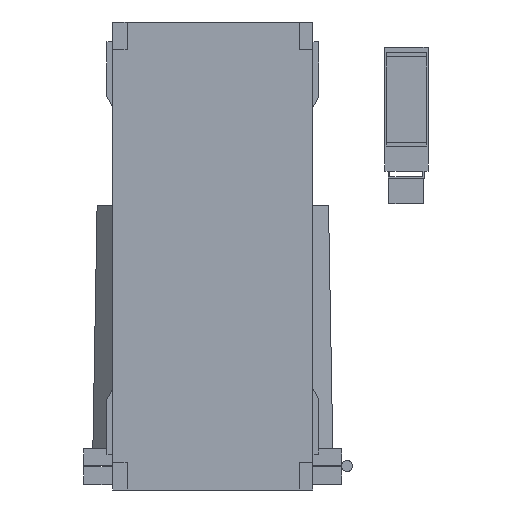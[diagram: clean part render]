
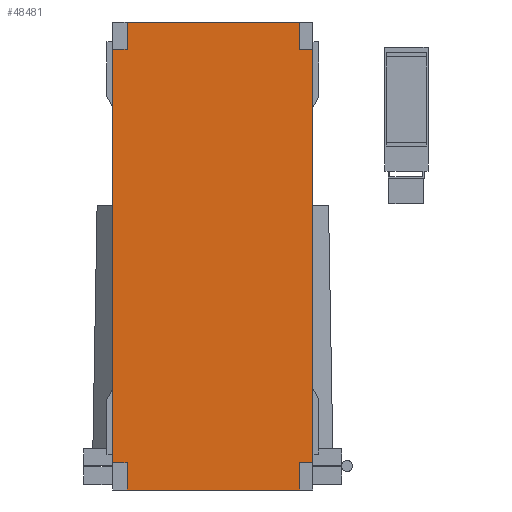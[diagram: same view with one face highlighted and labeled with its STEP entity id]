
A CAD part, front view. The second image highlights one B-rep face of the part: STEP entity #48481.
In plain terms, the highlighted planar face has unit normal (0, -1, 0).
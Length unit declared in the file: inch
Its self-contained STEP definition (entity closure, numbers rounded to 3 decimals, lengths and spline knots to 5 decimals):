
#14848=DIRECTION('',(0.,0.,1.));
#14849=VECTOR('',#14848,150.6875);
#14850=CARTESIAN_POINT('',(-36.5,-6.,-93.6875));
#14851=LINE('',#14850,#14849);
#14888=DIRECTION('',(-1.,0.,0.));
#14889=VECTOR('',#14888,5.22529);
#14890=CARTESIAN_POINT('',(-31.27471,-6.,57.));
#14891=LINE('',#14890,#14889);
#14892=DIRECTION('',(-1.,0.,0.));
#14893=VECTOR('',#14892,4.77471);
#14894=CARTESIAN_POINT('',(36.5,-6.,57.));
#14895=LINE('',#14894,#14893);
#14964=DIRECTION('',(-1.,0.,0.));
#14965=VECTOR('',#14964,63.);
#14966=CARTESIAN_POINT('',(31.72529,-6.,67.));
#14967=LINE('',#14966,#14965);
#14984=DIRECTION('',(0.,0.,-1.));
#14985=VECTOR('',#14984,10.);
#14986=CARTESIAN_POINT('',(31.72529,-6.,67.));
#14987=LINE('',#14986,#14985);
#14988=DIRECTION('',(-1.,0.,0.));
#14989=VECTOR('',#14988,4.77471);
#14990=CARTESIAN_POINT('',(36.5,-6.,-93.6875));
#14991=LINE('',#14990,#14989);
#14992=DIRECTION('',(0.,0.,-1.));
#14993=VECTOR('',#14992,10.);
#14994=CARTESIAN_POINT('',(31.72529,-6.,-93.6875));
#14995=LINE('',#14994,#14993);
#14996=DIRECTION('',(-1.,0.,0.));
#14997=VECTOR('',#14996,5.22529);
#14998=CARTESIAN_POINT('',(-31.27471,-6.,-93.6875));
#14999=LINE('',#14998,#14997);
#15040=DIRECTION('',(0.,0.,1.));
#15041=VECTOR('',#15040,150.6875);
#15042=CARTESIAN_POINT('',(36.5,-6.,-93.6875));
#15043=LINE('',#15042,#15041);
#15132=DIRECTION('',(-1.,0.,0.));
#15133=VECTOR('',#15132,63.);
#15134=CARTESIAN_POINT('',(31.72529,-6.,-103.6875));
#15135=LINE('',#15134,#15133);
#15140=DIRECTION('',(0.,0.,-1.));
#15141=VECTOR('',#15140,10.);
#15142=CARTESIAN_POINT('',(-31.27471,-6.,67.));
#15143=LINE('',#15142,#15141);
#15148=DIRECTION('',(0.,0.,-1.));
#15149=VECTOR('',#15148,10.);
#15150=CARTESIAN_POINT('',(-31.27471,-6.,-93.6875));
#15151=LINE('',#15150,#15149);
#24275=CARTESIAN_POINT('',(31.72529,-6.,67.));
#24277=VERTEX_POINT('',#24275);
#24278=CARTESIAN_POINT('',(-31.27471,-6.,67.));
#24279=VERTEX_POINT('',#24278);
#24283=CARTESIAN_POINT('',(31.72529,-6.,-103.6875));
#24285=VERTEX_POINT('',#24283);
#24286=CARTESIAN_POINT('',(-31.27471,-6.,-103.6875));
#24287=VERTEX_POINT('',#24286);
#29622=CARTESIAN_POINT('',(-36.5,-6.,57.));
#29623=VERTEX_POINT('',#29622);
#29624=CARTESIAN_POINT('',(-36.5,-6.,-93.6875));
#29625=VERTEX_POINT('',#29624);
#29626=CARTESIAN_POINT('',(36.5,-6.,57.));
#29627=VERTEX_POINT('',#29626);
#29628=CARTESIAN_POINT('',(36.5,-6.,-93.6875));
#29629=VERTEX_POINT('',#29628);
#29630=CARTESIAN_POINT('',(31.72529,-6.,57.));
#29631=VERTEX_POINT('',#29630);
#29632=CARTESIAN_POINT('',(31.72529,-6.,-93.6875));
#29633=VERTEX_POINT('',#29632);
#29634=CARTESIAN_POINT('',(-31.27471,-6.,57.));
#29635=VERTEX_POINT('',#29634);
#29636=CARTESIAN_POINT('',(-31.27471,-6.,-93.6875));
#29637=VERTEX_POINT('',#29636);
#48456=CARTESIAN_POINT('',(31.72529,-6.,67.));
#48457=DIRECTION('',(0.,1.,0.));
#48458=DIRECTION('',(-1.,0.,0.));
#48459=AXIS2_PLACEMENT_3D('',#48456,#48457,#48458);
#48460=PLANE('',#48459);
#48461=ORIENTED_EDGE('',*,*,#48434,.T.);
#48462=ORIENTED_EDGE('',*,*,#48341,.F.);
#48464=ORIENTED_EDGE('',*,*,#48463,.F.);
#48466=ORIENTED_EDGE('',*,*,#48465,.T.);
#48467=ORIENTED_EDGE('',*,*,#48451,.T.);
#48469=ORIENTED_EDGE('',*,*,#48468,.T.);
#48471=ORIENTED_EDGE('',*,*,#48470,.F.);
#48473=ORIENTED_EDGE('',*,*,#48472,.T.);
#48474=ORIENTED_EDGE('',*,*,#48287,.T.);
#48475=ORIENTED_EDGE('',*,*,#48326,.F.);
#48477=ORIENTED_EDGE('',*,*,#48476,.F.);
#48478=ORIENTED_EDGE('',*,*,#48415,.F.);
#48479=EDGE_LOOP('',(#48461,#48462,#48464,#48466,#48467,#48469,#48471,#48473,
#48474,#48475,#48477,#48478));
#48480=FACE_OUTER_BOUND('',#48479,.F.);
#48481=ADVANCED_FACE('',(#48480),#48460,.F.);
#48287=EDGE_CURVE('',#29625,#29623,#14851,.T.);
#48326=EDGE_CURVE('',#29635,#29623,#14891,.T.);
#48341=EDGE_CURVE('',#29627,#29631,#14895,.T.);
#48415=EDGE_CURVE('',#24277,#24279,#14967,.T.);
#48434=EDGE_CURVE('',#24277,#29631,#14987,.T.);
#48451=EDGE_CURVE('',#29633,#24285,#14995,.T.);
#48463=EDGE_CURVE('',#29629,#29627,#15043,.T.);
#48465=EDGE_CURVE('',#29629,#29633,#14991,.T.);
#48468=EDGE_CURVE('',#24285,#24287,#15135,.T.);
#48470=EDGE_CURVE('',#29637,#24287,#15151,.T.);
#48472=EDGE_CURVE('',#29637,#29625,#14999,.T.);
#48476=EDGE_CURVE('',#24279,#29635,#15143,.T.);
